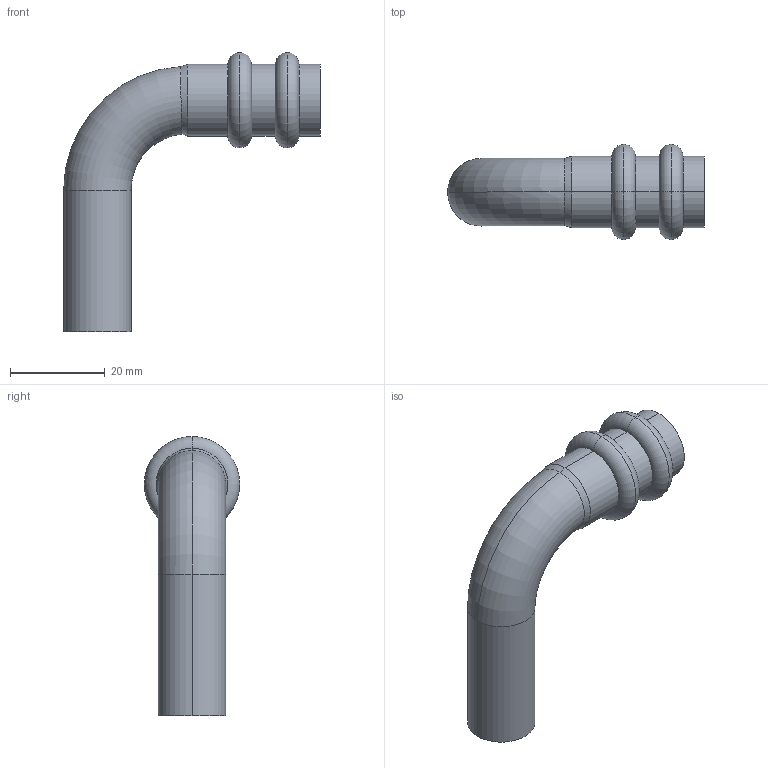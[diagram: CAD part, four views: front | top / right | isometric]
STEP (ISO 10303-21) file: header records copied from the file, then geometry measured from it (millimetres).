
FILE_DESCRIPTION(('starvars output'),'1');
FILE_NAME('cv20240422105003000011460.stp','10:50:03 2024/04/22',('Thomas Industrial Network Germany GmbH'),(' '),'Spatial InterOp 3D',' ',' ');
FILE_SCHEMA(('AUTOMOTIVE_DESIGN { 1 0 10303 214 3 1 1 }'));
Length unit declared in the file: millimetre
Products named in the file (1): 1
Bounding box: 54.1 x 20.1 x 58.8 mm (x, y, z)
Volume: 3644.2 mm3; surface area: 8463.9 mm2
Topology: 1 solids, 1 shells, 48 faces, 101 edges, 60 vertices
Faces by surface type: torus 20, cylinder 16, plane 8, cone 4
Entity records: 1956 total; most frequent: CARTESIAN_POINT 468, DIRECTION 264, ORIENTED_EDGE 202, AXIS2_PLACEMENT_3D 122, EDGE_CURVE 101, CIRCLE 73, VERTEX_POINT 60, EDGE_LOOP 55
